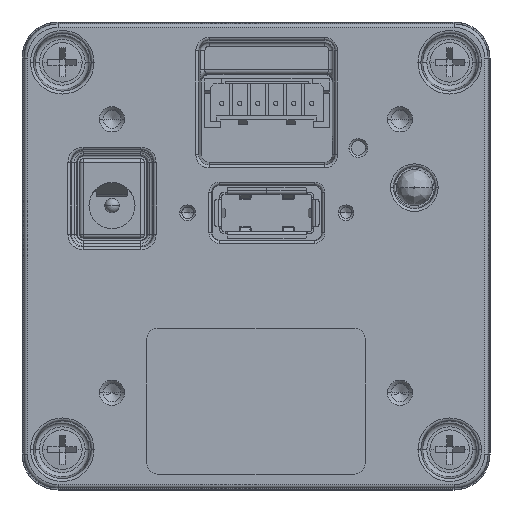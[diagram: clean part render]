
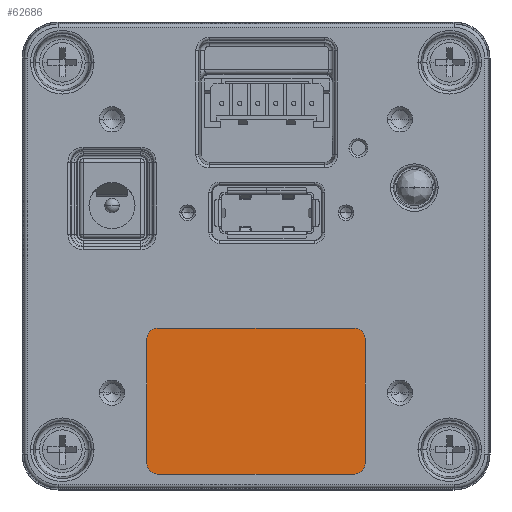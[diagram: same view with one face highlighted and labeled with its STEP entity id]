
A CAD part, front view. The second image highlights one B-rep face of the part: STEP entity #62686.
In plain terms, the highlighted planar face has unit normal (0, -1, 0).
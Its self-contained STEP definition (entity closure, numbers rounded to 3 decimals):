
#22389=DIRECTION('',(-1.,0.,0.));
#22390=VECTOR('',#22389,27.3);
#22391=CARTESIAN_POINT('',(13.65,-8.,-10.));
#22392=LINE('',#22391,#22390);
#22396=CARTESIAN_POINT('',(13.65,-8.,-11.5));
#22397=DIRECTION('',(0.,-1.,0.));
#22398=DIRECTION('',(1.,0.,0.));
#22399=AXIS2_PLACEMENT_3D('',#22396,#22397,#22398);
#22404=DIRECTION('',(0.,0.,1.));
#22405=VECTOR('',#22404,17.3);
#22406=CARTESIAN_POINT('',(15.15,-8.,-28.8));
#22407=LINE('',#22406,#22405);
#22411=CARTESIAN_POINT('',(13.65,-8.,-28.8));
#22412=DIRECTION('',(0.,-1.,0.));
#22413=DIRECTION('',(0.,0.,-1.));
#22414=AXIS2_PLACEMENT_3D('',#22411,#22412,#22413);
#22419=DIRECTION('',(1.,0.,0.));
#22420=VECTOR('',#22419,27.3);
#22421=CARTESIAN_POINT('',(-13.65,-8.,-30.3));
#22422=LINE('',#22421,#22420);
#22426=CARTESIAN_POINT('',(-13.65,-8.,-28.8));
#22427=DIRECTION('',(0.,-1.,0.));
#22428=DIRECTION('',(-1.,0.,0.));
#22429=AXIS2_PLACEMENT_3D('',#22426,#22427,#22428);
#22434=DIRECTION('',(0.,0.,-1.));
#22435=VECTOR('',#22434,17.3);
#22436=CARTESIAN_POINT('',(-15.15,-8.,-11.5));
#22437=LINE('',#22436,#22435);
#22441=CARTESIAN_POINT('',(-13.65,-8.,-11.5));
#22442=DIRECTION('',(0.,-1.,0.));
#22443=DIRECTION('',(0.,0.,1.));
#22444=AXIS2_PLACEMENT_3D('',#22441,#22442,#22443);
#39854=CARTESIAN_POINT('',(13.65,-8.,-10.));
#39855=CARTESIAN_POINT('',(-13.65,-8.,-10.));
#39856=VERTEX_POINT('',#39854);
#39857=VERTEX_POINT('',#39855);
#39858=CARTESIAN_POINT('',(-15.15,-8.,-11.5));
#39859=VERTEX_POINT('',#39858);
#39860=CARTESIAN_POINT('',(-15.15,-8.,-28.8));
#39861=VERTEX_POINT('',#39860);
#39862=CARTESIAN_POINT('',(-13.65,-8.,-30.3));
#39863=VERTEX_POINT('',#39862);
#39864=CARTESIAN_POINT('',(13.65,-8.,-30.3));
#39865=VERTEX_POINT('',#39864);
#39866=CARTESIAN_POINT('',(15.15,-8.,-28.8));
#39867=VERTEX_POINT('',#39866);
#39868=CARTESIAN_POINT('',(15.15,-8.,-11.5));
#39869=VERTEX_POINT('',#39868);
#62671=CARTESIAN_POINT('',(0.,-8.,0.));
#62672=DIRECTION('',(0.,-1.,0.));
#62673=DIRECTION('',(-1.,0.,0.));
#62674=AXIS2_PLACEMENT_3D('',#62671,#62672,#62673);
#62675=PLANE('',#62674);
#62676=ORIENTED_EDGE('',*,*,#62567,.F.);
#62677=ORIENTED_EDGE('',*,*,#62582,.F.);
#62678=ORIENTED_EDGE('',*,*,#62596,.F.);
#62679=ORIENTED_EDGE('',*,*,#62610,.F.);
#62680=ORIENTED_EDGE('',*,*,#62624,.F.);
#62681=ORIENTED_EDGE('',*,*,#62638,.F.);
#62682=ORIENTED_EDGE('',*,*,#62652,.F.);
#62683=ORIENTED_EDGE('',*,*,#62665,.F.);
#62684=EDGE_LOOP('',(#62676,#62677,#62678,#62679,#62680,#62681,#62682,#62683));
#62685=FACE_OUTER_BOUND('',#62684,.F.);
#22400=CIRCLE('',#22399,1.5);
#22415=CIRCLE('',#22414,1.5);
#22430=CIRCLE('',#22429,1.5);
#22445=CIRCLE('',#22444,1.5);
#62567=EDGE_CURVE('',#39856,#39857,#22392,.T.);
#62582=EDGE_CURVE('',#39869,#39856,#22400,.T.);
#62596=EDGE_CURVE('',#39867,#39869,#22407,.T.);
#62610=EDGE_CURVE('',#39865,#39867,#22415,.T.);
#62624=EDGE_CURVE('',#39863,#39865,#22422,.T.);
#62638=EDGE_CURVE('',#39861,#39863,#22430,.T.);
#62652=EDGE_CURVE('',#39859,#39861,#22437,.T.);
#62665=EDGE_CURVE('',#39857,#39859,#22445,.T.);
#62686=ADVANCED_FACE('',(#62685),#62675,.T.);
